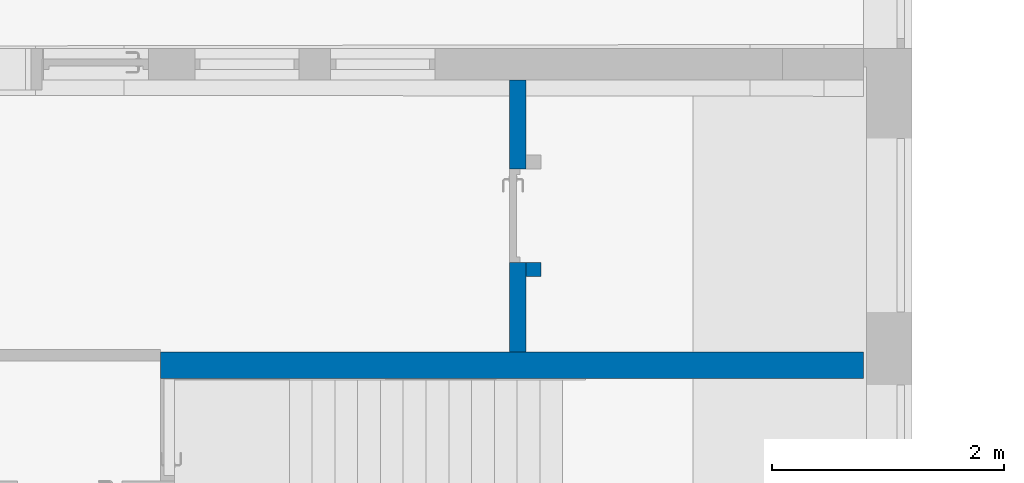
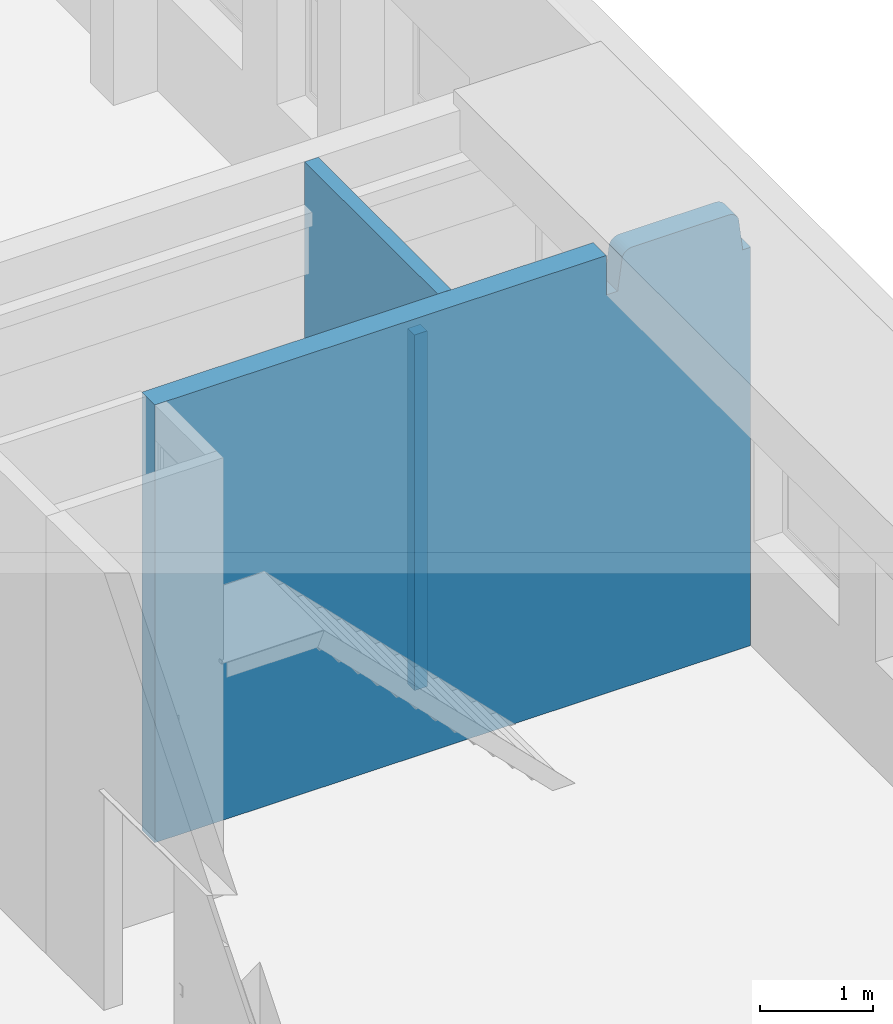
# One storey, part 146 of 301: 3 walls, 1 opening.
"""IFC2X3 building model written with IfcOpenShell, lengths in millimetres."""

from ifc_helpers import new_model, entity, si_unit, converted_unit, derived_unit, money_unit, direction, frame, origin_with_axes, place, context, subcontext, project, spatial, faceted_brep, material, type_object, element, save


model = new_model("IFC2X3")

# Units and contexts
model_context = context("Model", 3, precision=0.01, world=origin_with_axes(), true_north=direction((0.0, 1.0)))
body_context = subcontext(model_context, "Body", "Model", "MODEL_VIEW")
ifc_project = project(units=[si_unit("LENGTHUNIT", "METRE", prefix="MILLI"), si_unit("AREAUNIT", "SQUARE_METRE"), si_unit("VOLUMEUNIT", "CUBIC_METRE"), converted_unit("PLANEANGLEUNIT", "DEGREE", entity("IfcPlaneAngleMeasure", 0.0174532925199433), si_unit("PLANEANGLEUNIT", "RADIAN"), dimensions=[0, 0, 0, 0, 0, 0, 0]), money_unit("EUR"), converted_unit("TIMEUNIT", "Year", entity("IfcTimeMeasure", 31557600.0), si_unit("TIMEUNIT", "SECOND"), dimensions=[0, 0, 1, 0, 0, 0, 0]), si_unit("MASSUNIT", "GRAM", prefix="KILO"), si_unit("THERMODYNAMICTEMPERATUREUNIT", "DEGREE_CELSIUS"), si_unit("LUMINOUSINTENSITYUNIT", "LUMEN"), si_unit("ENERGYUNIT", "JOULE", prefix="MEGA"), derived_unit("THERMALCONDUCTANCEUNIT", [(si_unit("POWERUNIT", "WATT"), 1), (si_unit("LENGTHUNIT", "METRE"), -1), (si_unit("THERMODYNAMICTEMPERATUREUNIT", "KELVIN"), -1)]), derived_unit("SPECIFICHEATCAPACITYUNIT", [(si_unit("ENERGYUNIT", "JOULE"), 1), (si_unit("MASSUNIT", "GRAM", prefix="KILO"), -1), (si_unit("THERMODYNAMICTEMPERATUREUNIT", "KELVIN"), -1)]), derived_unit("MASSDENSITYUNIT", [(si_unit("MASSUNIT", "GRAM", prefix="KILO"), 1), (si_unit("VOLUMEUNIT", "CUBIC_METRE"), -1)])], contexts=[model_context])

# Site, building, storey
site_placement = place(None, frame((0.0, 0.0, 8650.0), z_axis=(0.0, 0.0, 1.0), x_axis=(1.0, 0.0, 0.0)))
site = spatial("IfcSite", under=ifc_project, at=site_placement, Name="43301:001:0844", CompositionType="ELEMENT")
building_placement = place(site_placement, origin_with_axes())
building = spatial("IfcBuilding", under=site, at=building_placement, Name="Kuressaare Ametikooli tuulikute mehaanikute õppekorpus", CompositionType="ELEMENT")
storey_placement = place(building_placement, origin_with_axes())
storey = spatial("IfcBuildingStorey", under=building, at=storey_placement, Name="1.korrus", CompositionType="ELEMENT", Elevation=0.0)

# Walls
ifc_material = material(Name="GENEERILINE - KONSTRUKTRIOON")
wall_type_1 = type_object("IfcWallType", Name="GENEERILINE - KONSTRUKTRIOON 230", PredefinedType="NOTDEFINED")
wall_1_placement = place(storey_placement, frame((103227.5122070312, 71944.2240258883, 44.99999999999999), z_axis=(0.0, 0.0, 1.0), x_axis=(-1.0, 0.0, 0.0)))
element("IfcWall", 1, at=wall_1_placement, inside=storey, type_object=wall_type_1, material=ifc_material, Name="SS-XX", context=body_context, shape_type="Brep", body=[
    faceted_brep([(137.0435186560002, 0.0, 4666.307632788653), (124.2253229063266, 0.0, 4644.221146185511), (81.47696583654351, 0.0, 4290.0), (0.0, 0.0, 4290.0), (0.0, 0.0, 0.0), (6069.916687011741, 0.0, 0.0), (6069.916687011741, 0.0, 4715.0), (1471.62582898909, 0.0, 4715.0), (1471.62582898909, 0.0, 4290.0), (1355.113922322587, 0.0, 4290.0), (1308.299723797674, 0.0, 4644.214059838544), (1296.099046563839, 0.0, 4666.878698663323), (1279.084482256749, 0.0, 4686.193122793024), (1258.139382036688, 0.0, 4701.154578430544), (1234.351160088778, 0.0, 4710.986306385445), (1210.032533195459, 0.0, 4715.0), (222.5932021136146, 0.0, 4715.0), (198.4345847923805, 0.0, 4710.194734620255), (174.9990921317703, 0.0, 4700.050932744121), (154.2249064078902, 0.0, 4685.19993142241), (124.2253229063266, 230.000000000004, 4644.221146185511), (137.0435186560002, 230.000000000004, 4666.307632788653), (81.47696583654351, 230.000000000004, 4290.0), (0.0, 230.000000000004, 4290.0), (0.0, 230.000000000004, 0.0), (6069.916687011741, 230.000000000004, 0.0), (6069.916687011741, 230.000000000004, 4715.0), (1471.62582898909, 230.000000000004, 4715.0), (1471.62582898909, 230.000000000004, 4290.0), (1355.113922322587, 230.000000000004, 4290.0), (1308.299723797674, 230.000000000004, 4644.214059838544), (1296.099046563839, 230.000000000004, 4666.878698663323), (1279.084482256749, 230.000000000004, 4686.193122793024), (1258.139382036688, 230.000000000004, 4701.154578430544), (1234.351160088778, 230.000000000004, 4710.986306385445), (1210.032533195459, 230.000000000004, 4715.0), (222.5932021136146, 230.000000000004, 4715.0), (198.4345847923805, 230.000000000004, 4710.194734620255), (174.9990921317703, 230.000000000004, 4700.050932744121), (154.2249064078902, 230.000000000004, 4685.19993142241)], [[[0, 1, 2, 3, 4, 5, 6, 7, 8, 9, 10, 11, 12, 13, 14, 15, 16, 17, 18, 19]], [[20, 1, 0, 21]], [[22, 2, 1, 20]], [[22, 23, 3, 2]], [[4, 3, 23, 24]], [[24, 25, 5, 4]], [[6, 5, 25, 26]], [[26, 27, 7, 6]], [[28, 8, 7, 27]], [[29, 9, 8, 28]], [[30, 10, 9, 29]], [[31, 11, 10, 30]], [[32, 12, 11, 31]], [[33, 13, 12, 32]], [[34, 14, 13, 33]], [[34, 35, 15, 14]], [[35, 36, 16, 15]], [[37, 17, 16, 36]], [[38, 18, 17, 37]], [[39, 19, 18, 38]], [[21, 0, 19, 39]], [[38, 37, 36, 35, 34, 33, 32, 31, 30, 29, 28, 27, 26, 25, 24, 23, 22, 20, 21, 39]]]),
])
wall_type_2 = type_object("IfcWallType", Name="GENEERILINE - KONSTRUKTRIOON 120", PredefinedType="NOTDEFINED")
wall_2_placement = place(storey_placement, frame((100441.5119934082, 72715.09933471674, 44.99999999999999), z_axis=(0.0, 0.0, 1.0), x_axis=(-1.0, 0.0, 0.0)))
element("IfcWall", 2, at=wall_2_placement, inside=storey, type_object=wall_type_2, material=ifc_material, Name="SS-XX", context=body_context, shape_type="Brep", body=[
    faceted_brep([(0.0, 120.0000000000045, 0.0), (129.9999999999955, 120.0000000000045, 0.0), (129.9999999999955, 0.0, 0.0), (0.0, 0.0, 0.0), (0.0, 120.0000000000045, 3830.0), (129.9999999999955, 120.0000000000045, 3830.0), (129.9999999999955, 0.0, 3830.0), (0.0, 0.0, 3830.0)], [[[0, 1, 2, 3]], [[4, 5, 1, 0]], [[2, 1, 5, 6]], [[3, 2, 6, 7]], [[4, 0, 3, 7]], [[7, 6, 5, 4]]]),
])

# Wall, opening
wall_type_3 = type_object("IfcWallType", Name="GENEERILINE - KONSTRUKTRIOON 140", PredefinedType="NOTDEFINED")
wall_3_placement = place(storey_placement, frame((100171.6843510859, 74295.19261974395, 44.99999999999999), z_axis=(0.0, 0.0, 1.0), x_axis=(0.0, -1.0, 0.0)))
wall_3 = element("IfcWall", 3, at=wall_3_placement, inside=storey, type_object=wall_type_3, material=ifc_material, Name="SS-XX", context=body_context, shape_type="Brep", body=[
    faceted_brep([(1580.093285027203, 140.0000000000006, 0.0), (1580.093285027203, 140.0000000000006, 2030.0), (769.9742545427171, 140.0000000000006, 2030.0), (769.9742545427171, 140.0000000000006, 0.0), (0.0, 140.0000000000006, 0.0), (0.0, 140.0000000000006, 4715.0), (2350.968593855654, 140.0000000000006, 4715.0), (2350.968593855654, 140.0000000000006, 0.0), (1580.093285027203, 0.0, 0.0), (1580.093285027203, 0.0, 2030.0), (769.9742545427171, 0.0, 2030.0), (769.9742545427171, 0.0, 0.0), (0.0, 0.0, 0.0), (0.0, 0.0, 4715.0), (2350.968593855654, 0.0, 4715.0), (2350.968593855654, 0.0, 0.0)], [[[0, 1, 2, 3, 4, 5, 6, 7]], [[1, 0, 8, 9]], [[2, 1, 9, 10]], [[3, 2, 10, 11]], [[3, 11, 12, 4]], [[4, 12, 13, 5]], [[6, 5, 13, 14]], [[7, 6, 14, 15]], [[8, 0, 7, 15]], [[9, 8, 15, 14, 13, 12, 11, 10]]]),
])
opening_placement = place(wall_3_placement, frame((1175.03376978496, 0.0, 0.0), z_axis=(0.0, 0.0, 1.0), x_axis=(1.0, 0.0, 0.0)))
element("IfcOpeningElement", 4, at=opening_placement, cuts=wall_3, Name="SU-XX", context=body_context, shape_type="Brep", body=[
    faceted_brep([(405.0595152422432, 141.0000000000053, 2030.0), (405.0595152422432, 141.0000000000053, 0.0), (-405.0595152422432, 141.0000000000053, 0.0), (-405.0595152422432, 141.0000000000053, 2030.0), (405.0595152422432, -1.000000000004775, 2030.0), (405.0595152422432, -1.000000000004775, 0.0), (-405.0595152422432, -1.000000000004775, 0.0), (-405.0595152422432, -1.000000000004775, 2030.0)], [[[0, 1, 2, 3]], [[4, 5, 1, 0]], [[5, 6, 2, 1]], [[6, 7, 3, 2]], [[7, 4, 0, 3]], [[6, 5, 4, 7]]]),
])

save(model, "model.ifc")
